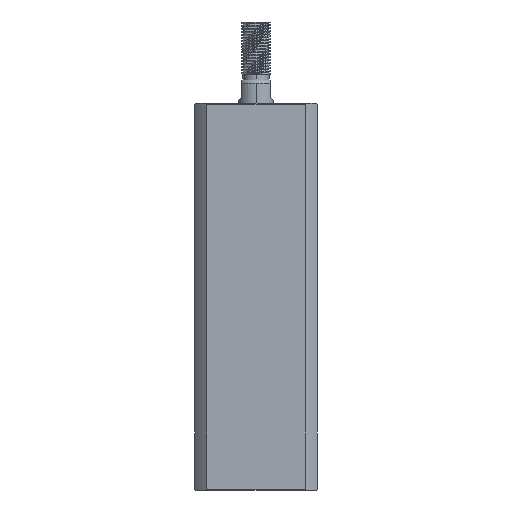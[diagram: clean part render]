
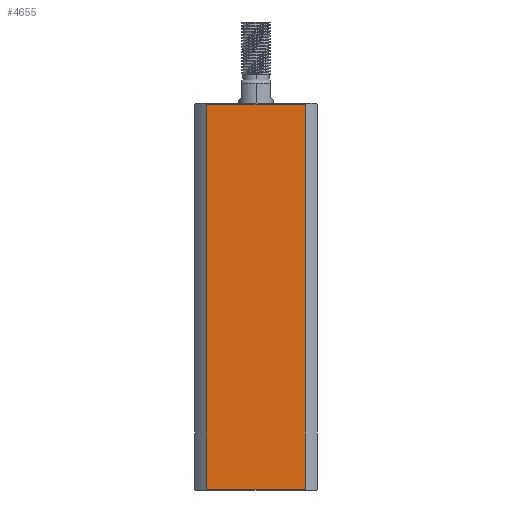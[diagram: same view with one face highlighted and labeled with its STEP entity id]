
A CAD part, left-side view. The second image highlights one B-rep face of the part: STEP entity #4655.
In plain terms, the highlighted planar face has unit normal (-1, 0, 0).
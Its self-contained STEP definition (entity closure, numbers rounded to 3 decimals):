
#249 = AXIS2_PLACEMENT_3D ( 'NONE', #12070, #14408, #7549 ) ;
#391 = CARTESIAN_POINT ( 'NONE',  ( -21., 21., 0.3 ) ) ;
#397 = CARTESIAN_POINT ( 'NONE',  ( -21., 16.971, 0.3 ) ) ;
#1550 = CARTESIAN_POINT ( 'NONE',  ( -21., 16.971, -117. ) ) ;
#1566 = DIRECTION ( 'NONE',  ( 0., -1., 0. ) ) ;
#1617 = LINE ( 'NONE', #391, #10471 ) ;
#1734 = ORIENTED_EDGE ( 'NONE', *, *, #8682, .F. ) ;
#1741 = DIRECTION ( 'NONE',  ( 0., 0., -1. ) ) ;
#2994 = CARTESIAN_POINT ( 'NONE',  ( -21., 16.971, 132.7 ) ) ;
#3178 = CARTESIAN_POINT ( 'NONE',  ( -21., -16.971, 0.3 ) ) ;
#3875 = EDGE_CURVE ( 'NONE', #9712, #5561, #13956, .T. ) ;
#4655 = ADVANCED_FACE ( 'NONE', ( #14515 ), #10967, .F. ) ;
#4699 = VERTEX_POINT ( 'NONE', #11069 ) ;
#5146 = CARTESIAN_POINT ( 'NONE',  ( -21., 21., 132.7 ) ) ;
#5561 = VERTEX_POINT ( 'NONE', #2994 ) ;
#6295 = DIRECTION ( 'NONE',  ( 0., 1., 0. ) ) ;
#7251 = ORIENTED_EDGE ( 'NONE', *, *, #8085, .T. ) ;
#7549 = DIRECTION ( 'NONE',  ( 0., 1., 0. ) ) ;
#8085 = EDGE_CURVE ( 'NONE', #4699, #5561, #9334, .T. ) ;
#8487 = DIRECTION ( 'NONE',  ( 0., 0., 1. ) ) ;
#8682 = EDGE_CURVE ( 'NONE', #4699, #11100, #11824, .T. ) ;
#8684 = CARTESIAN_POINT ( 'NONE',  ( -21., -16.971, -117. ) ) ;
#8804 = VECTOR ( 'NONE', #1741, 1000. ) ;
#9334 = LINE ( 'NONE', #5146, #12012 ) ;
#9432 = ORIENTED_EDGE ( 'NONE', *, *, #13086, .T. ) ;
#9712 = VERTEX_POINT ( 'NONE', #397 ) ;
#10306 = EDGE_LOOP ( 'NONE', ( #13045, #9432, #1734, #7251 ) ) ;
#10471 = VECTOR ( 'NONE', #1566, 1000. ) ;
#10967 = PLANE ( 'NONE',  #249 ) ;
#11069 = CARTESIAN_POINT ( 'NONE',  ( -21., -16.971, 132.7 ) ) ;
#11100 = VERTEX_POINT ( 'NONE', #3178 ) ;
#11824 = LINE ( 'NONE', #8684, #8804 ) ;
#12012 = VECTOR ( 'NONE', #6295, 1000. ) ;
#12070 = CARTESIAN_POINT ( 'NONE',  ( -21., 21., 133. ) ) ;
#13045 = ORIENTED_EDGE ( 'NONE', *, *, #3875, .F. ) ;
#13086 = EDGE_CURVE ( 'NONE', #9712, #11100, #1617, .T. ) ;
#13617 = VECTOR ( 'NONE', #8487, 1000. ) ;
#13956 = LINE ( 'NONE', #1550, #13617 ) ;
#14408 = DIRECTION ( 'NONE',  ( 1., 0., 0. ) ) ;
#14515 = FACE_OUTER_BOUND ( 'NONE', #10306, .T. ) ;
